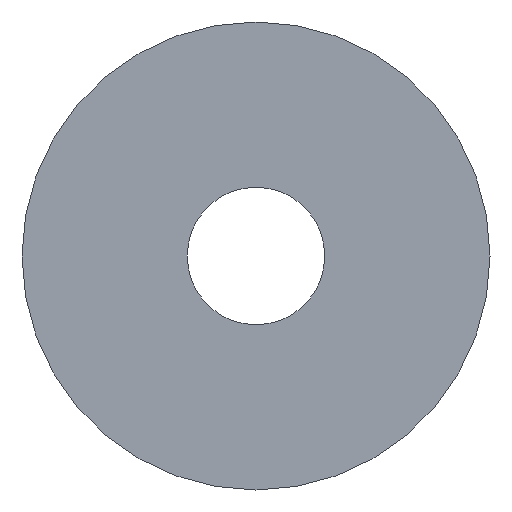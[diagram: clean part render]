
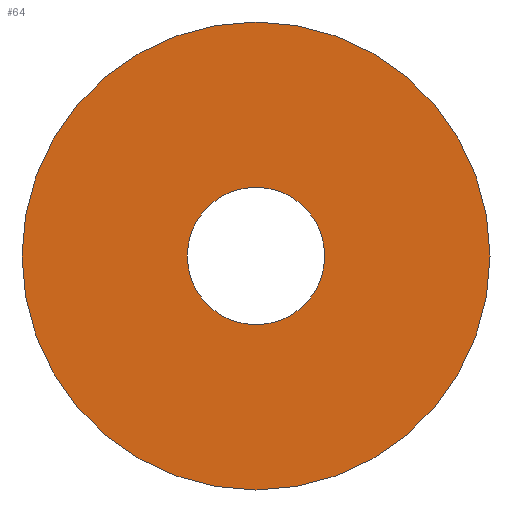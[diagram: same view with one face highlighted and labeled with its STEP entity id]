
A CAD part, left-side view. The second image highlights one B-rep face of the part: STEP entity #64.
In plain terms, the highlighted planar face has unit normal (-1, 0, 0).
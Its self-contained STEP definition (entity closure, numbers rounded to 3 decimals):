
#16=FACE_BOUND('',#28,.T.);
#18=PLANE('',#95);
#22=FACE_OUTER_BOUND('',#27,.T.);
#27=EDGE_LOOP('',(#57));
#28=EDGE_LOOP('',(#58));
#33=CIRCLE('',#89,2.35);
#36=CIRCLE('',#93,8.);
#37=VERTEX_POINT('',#118);
#40=VERTEX_POINT('',#126);
#41=EDGE_CURVE('',#37,#37,#33,.T.);
#46=EDGE_CURVE('',#40,#40,#36,.T.);
#57=ORIENTED_EDGE('',*,*,#46,.T.);
#58=ORIENTED_EDGE('',*,*,#41,.T.);
#64=ADVANCED_FACE('',(#22,#16),#18,.T.);
#89=AXIS2_PLACEMENT_3D('',#119,#100,#101);
#93=AXIS2_PLACEMENT_3D('',#128,#110,#111);
#95=AXIS2_PLACEMENT_3D('',#130,#114,#115);
#100=DIRECTION('center_axis',(1.,0.,0.));
#101=DIRECTION('ref_axis',(0.,-1.,0.));
#110=DIRECTION('center_axis',(-1.,0.,0.));
#111=DIRECTION('ref_axis',(0.,-1.,0.));
#114=DIRECTION('center_axis',(-1.,0.,0.));
#115=DIRECTION('ref_axis',(0.,0.,1.));
#118=CARTESIAN_POINT('',(0.,2.35,0.));
#119=CARTESIAN_POINT('Origin',(0.,0.,0.));
#126=CARTESIAN_POINT('',(0.,8.,0.));
#128=CARTESIAN_POINT('Origin',(0.,0.,0.));
#130=CARTESIAN_POINT('Origin',(0.,0.,0.));
